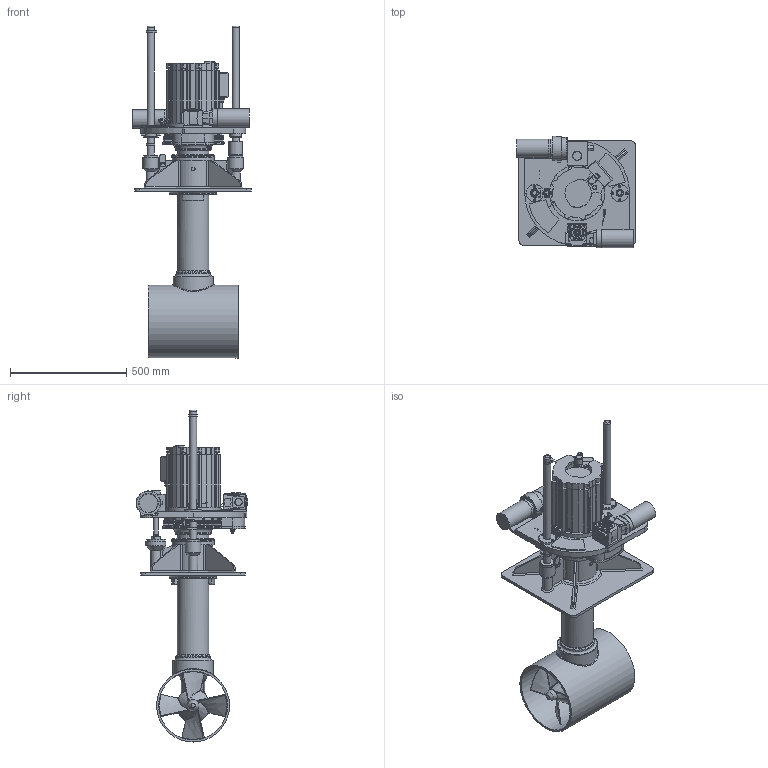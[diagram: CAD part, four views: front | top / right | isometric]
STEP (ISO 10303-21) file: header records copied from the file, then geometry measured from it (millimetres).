
FILE_DESCRIPTION(/* description */ (''),/* implementation_level */ '2;1');
FILE_NAME(/* name */ 'Q:\THRUSTERS\THRUSTER SALES & SUPPORT DOCS\THRUSTER Sales\E-V-R\E-0300-V-R\E-0300-V-R-DEPLOYED.stp',/* time_stamp */ '2022-04-06T16:06:51+01:00',/* author */ ('Ben'),/* organization */ (''),/* preprocessor_version */ 'ST-DEVELOPER v18.1',/* originating_system */ 'Autodesk Inventor 2022',/* authorisation */ '');
FILE_SCHEMA (('AUTOMOTIVE_DESIGN { 1 0 10303 214 3 1 1 }'));
Length unit declared in the file: millimetre
Products named in the file (1): E-0300-V-R_Simplify_1
Bounding box: 510.2 x 479.57 x 1425.73 mm (x, y, z)
Volume: 44219764 mm3; surface area: 3509316.3 mm2
Topology: 4 solids, 4 shells, 3803 faces, 10028 edges, 6426 vertices
Faces by surface type: plane 1951, cylinder 1251, cone 264, torus 182, bspline 102, sphere 53
Full cylindrical faces by diameter (mm): 1.15 x7, 1.35 x8, 1.8 x6, 3.7 x3, 4 x2, 5 x46, 5.65 x2, 6 x4, 6.4 x6, 6.8 x1, 6.917 x2, 7.4 x1, 8 x8, 8.5 x34, 9.398 x3, 10 x15, 10.7 x1, 11.938 x3, 12 x1, 13 x2, 14 x1, 14.097 x3, 14.986 x3, 15 x1, 17 x2, 20 x5, 21 x3, 23 x2, 24 x1, 25 x5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
Entity records: 130635 total; most frequent: CARTESIAN_POINT 32564, ORIENTED_EDGE 19970, DIRECTION 19710, EDGE_CURVE 9985, AXIS2_PLACEMENT_3D 7129, VERTEX_POINT 6426, LINE 5452, VECTOR 5452
